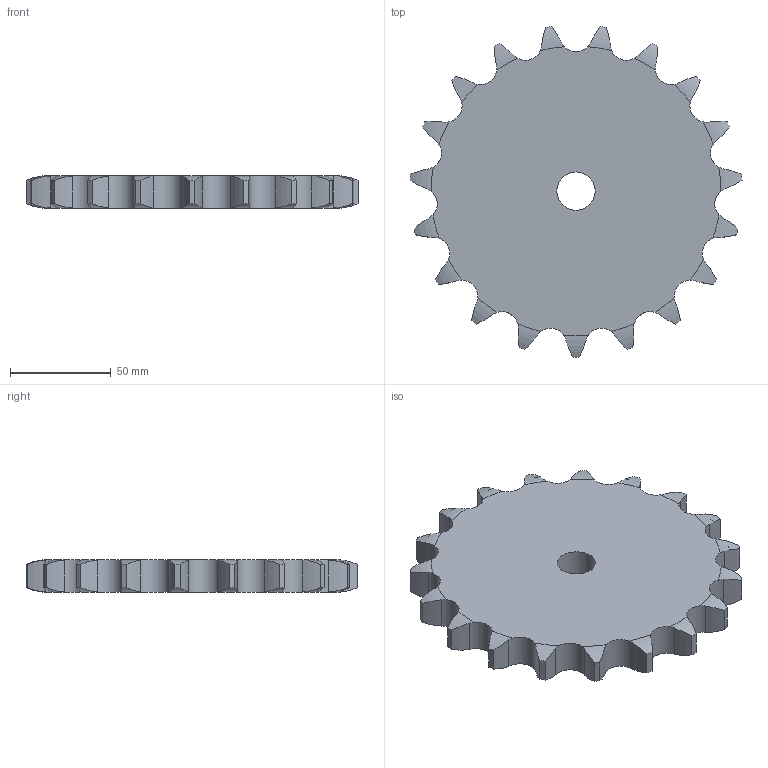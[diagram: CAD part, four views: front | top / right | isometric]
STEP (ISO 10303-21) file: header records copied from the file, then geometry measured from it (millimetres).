
FILE_DESCRIPTION((''),'2;1');
FILE_NAME('500-501-0019_PRT','2021-02-12T',('Brieden'),('Brieden'),'PRO/ENGINEER BY PARAMETRIC TECHNOLOGY CORPORATION, 2010160','PRO/ENGINEER BY PARAMETRIC TECHNOLOGY CORPORATION, 2010160','');
FILE_SCHEMA(('AUTOMOTIVE_DESIGN { 1 0 10303 214 1 1 1 1 }'));
Length unit declared in the file: millimetre
Products named in the file (1): 500-501-0019_PRT
Bounding box: 164.85 x 164.3 x 16.2 mm (x, y, z)
Volume: 275177.2 mm3; surface area: 46503.9 mm2
Topology: 1 solids, 1 shells, 118 faces, 348 edges, 232 vertices
Faces by surface type: cylinder 78, torus 38, plane 2
Entity records: 5722 total; most frequent: CARTESIAN_POINT 1639, ORIENTED_EDGE 696, DIRECTION 550, PRESENTATION_STYLE_ASSIGNMENT 349, STYLED_ITEM 349, CURVE_STYLE 348, EDGE_CURVE 348, AXIS2_PLACEMENT_3D 236
